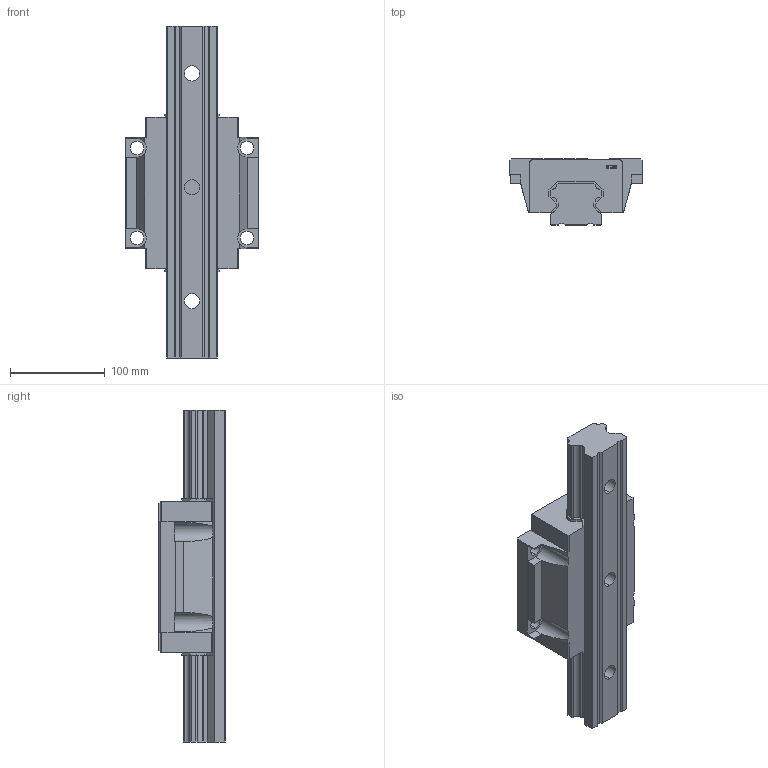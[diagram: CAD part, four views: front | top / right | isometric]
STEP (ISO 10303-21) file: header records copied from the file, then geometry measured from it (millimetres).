
FILE_DESCRIPTION (( 'STEP AP214' ), '1' );
FILE_NAME ('7.1007 Lineaarikelkka HTW55CC.STEP', '2026-03-11T11:04:49', ( '' ), ( '' ), 'SwSTEP 2.0', 'SolidWorks 2025', '' );
FILE_SCHEMA (( 'AUTOMOTIVE_DESIGN' ));
Length unit declared in the file: millimetre
Products named in the file (5): HG_RAIL0_R_ANY; HG_BLOCK_HGWCC_ANY; HG_BLOCK_SS_ANY_ASM; HTW55C_ANY_ASM; 7.1007 Lineaarikelkka HTW55CC
Assembly tree (4 placements, depth 4):
  7.1007 Lineaarikelkka HTW55CC
    HTW55C_ANY_ASM
      HG_BLOCK_SS_ANY_ASM
        HG_BLOCK_HGWCC_ANY
      HG_RAIL0_R_ANY
Bounding box: 140 x 70 x 350 mm (x, y, z)
Volume: 1469307.2 mm3; surface area: 167471.4 mm2
Topology: 2 solids, 2 shells, 750 faces, 2127 edges, 1418 vertices
Faces by surface type: plane 689, cylinder 36, bspline 25
Entity records: 34369 total; most frequent: CARTESIAN_POINT 6549, ORIENTED_EDGE 4254, DIRECTION 3609, EDGE_CURVE 2127, LINE 1997, VECTOR 1997, VERTEX_POINT 1418, AXIS2_PLACEMENT_3D 806
